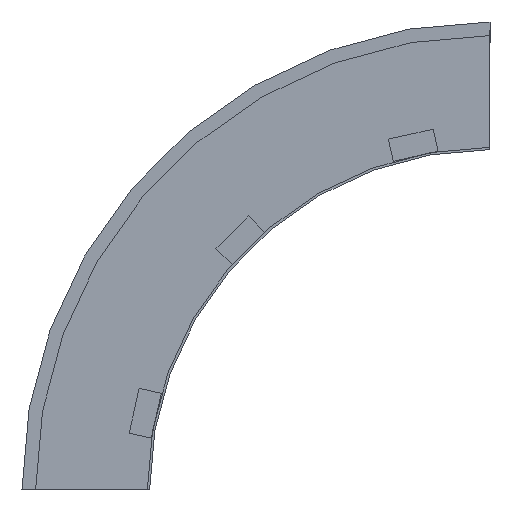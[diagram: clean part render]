
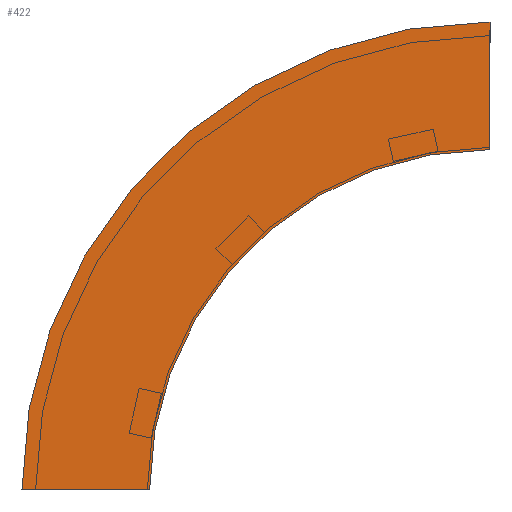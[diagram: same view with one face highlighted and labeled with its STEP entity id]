
A CAD part, left-side view. The second image highlights one B-rep face of the part: STEP entity #422.
In plain terms, the highlighted planar face has unit normal (-1, 0, 0) as drawn and (1, 0, 0) by its records, which use the part's own axes.
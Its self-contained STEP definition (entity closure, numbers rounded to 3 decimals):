
#2 = CIRCLE ( 'NONE', #34, 412.5 ) ;
#4 = EDGE_CURVE ( 'NONE', #323, #258, #133, .T. ) ;
#6 = ORIENTED_EDGE ( 'NONE', *, *, #4, .F. ) ;
#27 = EDGE_CURVE ( 'NONE', #258, #195, #261, .T. ) ;
#31 = DIRECTION ( 'NONE',  ( 0., 1., 0. ) ) ;
#34 = AXIS2_PLACEMENT_3D ( 'NONE', #265, #365, #56 ) ;
#39 = CARTESIAN_POINT ( 'NONE',  ( 0., 0., 0. ) ) ;
#40 = CARTESIAN_POINT ( 'NONE',  ( 0., 112.5, 0. ) ) ;
#56 = DIRECTION ( 'NONE',  ( 0., 1., 0. ) ) ;
#95 = AXIS2_PLACEMENT_3D ( 'NONE', #498, #100, #228 ) ;
#100 = DIRECTION ( 'NONE',  ( 1., 0., 0. ) ) ;
#116 = AXIS2_PLACEMENT_3D ( 'NONE', #431, #201, #572 ) ;
#122 = CARTESIAN_POINT ( 'NONE',  ( 0., -300., 412.5 ) ) ;
#133 = CIRCLE ( 'NONE', #95, 300. ) ;
#139 = PLANE ( 'NONE',  #116 ) ;
#140 = ORIENTED_EDGE ( 'NONE', *, *, #27, .F. ) ;
#143 = ORIENTED_EDGE ( 'NONE', *, *, #383, .T. ) ;
#162 = VERTEX_POINT ( 'NONE', #40 ) ;
#194 = EDGE_LOOP ( 'NONE', ( #212, #140, #6, #143 ) ) ;
#195 = VERTEX_POINT ( 'NONE', #122 ) ;
#201 = DIRECTION ( 'NONE',  ( 1., 0., 0. ) ) ;
#206 = VECTOR ( 'NONE', #31, 1000. ) ;
#212 = ORIENTED_EDGE ( 'NONE', *, *, #509, .T. ) ;
#228 = DIRECTION ( 'NONE',  ( 0., 1., 0. ) ) ;
#258 = VERTEX_POINT ( 'NONE', #296 ) ;
#261 = LINE ( 'NONE', #454, #502 ) ;
#265 = CARTESIAN_POINT ( 'NONE',  ( 0., -300., 0. ) ) ;
#268 = CARTESIAN_POINT ( 'NONE',  ( 0., 0., 0. ) ) ;
#296 = CARTESIAN_POINT ( 'NONE',  ( 0., -300., 300. ) ) ;
#307 = DIRECTION ( 'NONE',  ( 0., 0., 1. ) ) ;
#323 = VERTEX_POINT ( 'NONE', #268 ) ;
#365 = DIRECTION ( 'NONE',  ( 1., 0., 0. ) ) ;
#383 = EDGE_CURVE ( 'NONE', #323, #162, #481, .T. ) ;
#395 = FACE_OUTER_BOUND ( 'NONE', #194, .T. ) ;
#422 = ADVANCED_FACE ( 'NONE', ( #395 ), #139, .T. ) ;
#431 = CARTESIAN_POINT ( 'NONE',  ( 0., 0., 0. ) ) ;
#454 = CARTESIAN_POINT ( 'NONE',  ( 0., -300., 300. ) ) ;
#481 = LINE ( 'NONE', #39, #206 ) ;
#498 = CARTESIAN_POINT ( 'NONE',  ( 0., -300., 0. ) ) ;
#502 = VECTOR ( 'NONE', #307, 1000. ) ;
#509 = EDGE_CURVE ( 'NONE', #162, #195, #2, .T. ) ;
#572 = DIRECTION ( 'NONE',  ( 0., 0., -1. ) ) ;
